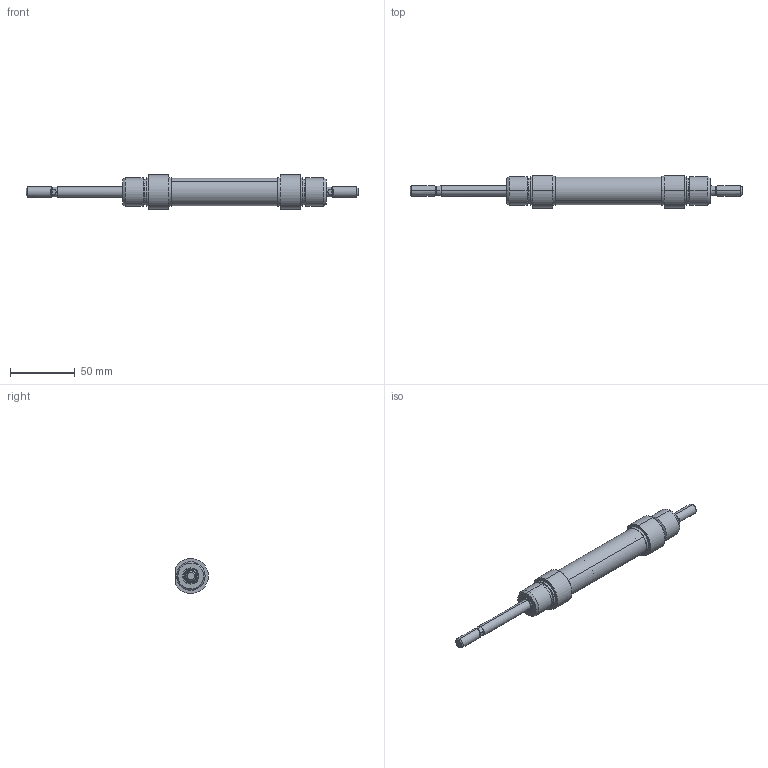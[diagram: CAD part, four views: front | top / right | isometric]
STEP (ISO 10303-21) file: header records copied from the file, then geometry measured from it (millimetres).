
FILE_DESCRIPTION (( 'STEP AP203' ), '1' );
FILE_NAME ('MJ0200050A.step', '2012-10-17T16:37:43', ( '' ), ( '' ), 'SwSTEP 2.0', 'SolidWorks 2012', '' );
FILE_SCHEMA (( 'CONFIG_CONTROL_DESIGN' ));
Length unit declared in the file: millimetre
Products named in the file (1): MJ0200050A
Bounding box: 256 x 25.2 x 27 mm (x, y, z)
Volume: 53420 mm3; surface area: 20701.1 mm2
Topology: 1 solids, 2 shells, 124 faces, 270 edges, 168 vertices
Faces by surface type: cylinder 50, plane 38, cone 28, torus 8
Entity records: 3655 total; most frequent: CARTESIAN_POINT 769, DIRECTION 648, ORIENTED_EDGE 540, EDGE_CURVE 270, AXIS2_PLACEMENT_3D 269, VERTEX_POINT 168, EDGE_LOOP 144, CIRCLE 144
